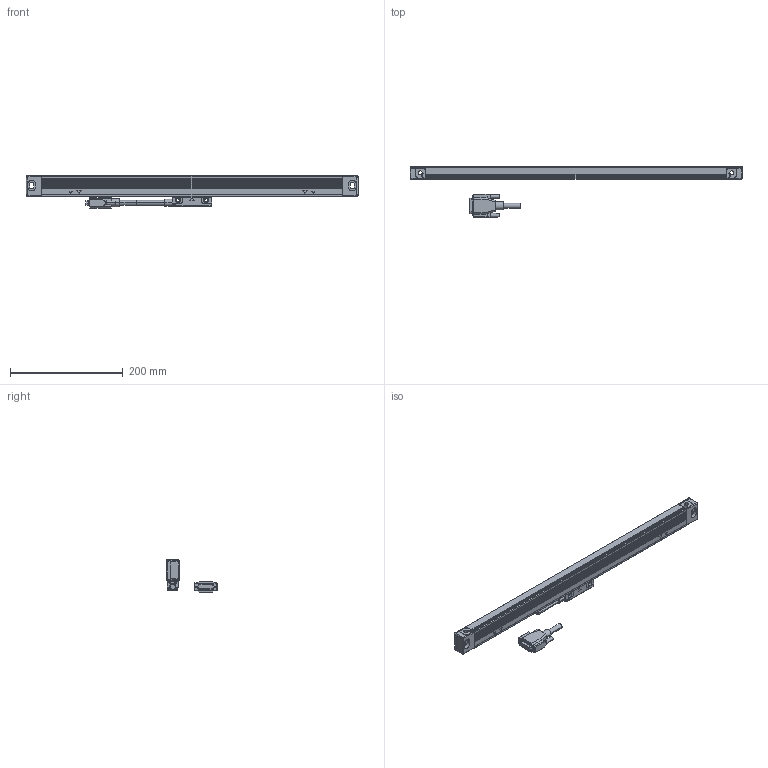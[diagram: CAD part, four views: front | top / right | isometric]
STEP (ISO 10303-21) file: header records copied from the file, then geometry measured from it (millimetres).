
FILE_DESCRIPTION(('Creo Elements/Direct Modeling STEP Export'),'2;1');
FILE_NAME('AT715-400_営業送付.stp','2018-12-20T15:23:27',(''),(''),'Creo Elements/Direct Modeling STEP processor for AP214 (Solid Model)','Creo Elements/Direct Modeling 18.1B 29-Sep-2012 (C) Parametric Technology GmbH','');
FILE_SCHEMA(('AUTOMOTIVE_DESIGN { 1 0 10303 214 1 1 1 1 }'));
Length unit declared in the file: millimetre
Products named in the file (4): Scale_400; Connector; DetectorHead; AT715-400
Assembly tree (3 placements, depth 2):
  AT715-400
    DetectorHead
    Connector
    Scale_400
Bounding box: 588 x 90 x 57.65 mm (x, y, z)
Volume: 465704.6 mm3; surface area: 107320.2 mm2
Topology: 3 solids, 5 shells, 501 faces, 1301 edges, 837 vertices
Faces by surface type: plane 280, cylinder 183, torus 18, cone 12, bspline 4, sphere 4
Entity records: 15747 total; most frequent: CARTESIAN_POINT 3442, ORIENTED_EDGE 2594, DIRECTION 2467, EDGE_CURVE 1297, VECTOR 839, LINE 839, VERTEX_POINT 837, AXIS2_PLACEMENT_3D 814
